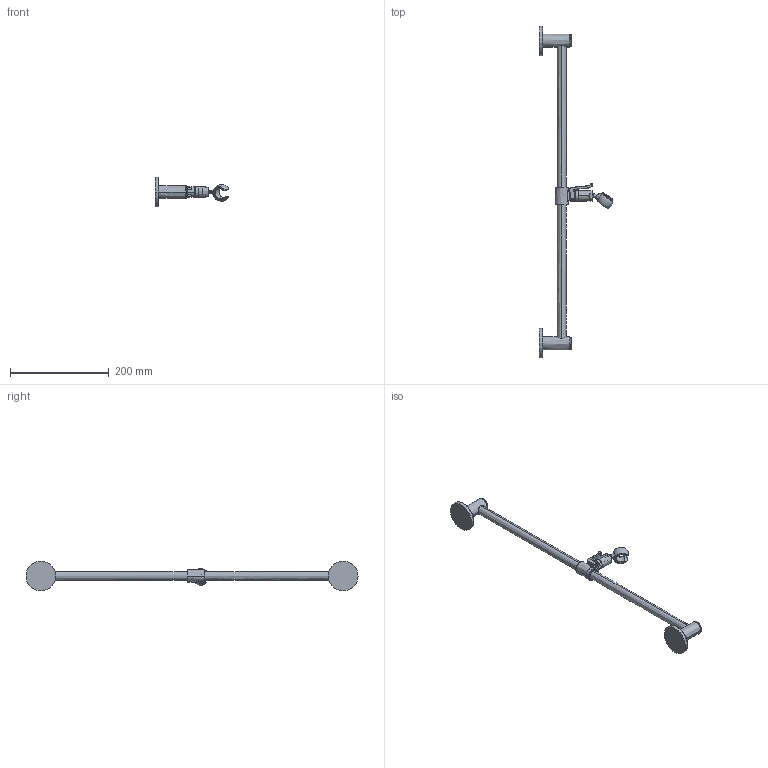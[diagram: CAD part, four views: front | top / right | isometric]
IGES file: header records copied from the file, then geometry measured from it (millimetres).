
Start section:  PTC IGES file: 26_000_502_xxx.igs
Global section: file name: 26_000_502_xxx.igs; native system: Creo Elements/Pro by Parametric Technology Corporation; preprocessor: 2011080; author: lff; organization: Unknown; date: 20120419.134219; units: millimetre
Bounding box: 149.37 x 672 x 60 mm (x, y, z)
Volume: 267127.3 mm3; surface area: 78340 mm2
Topology: 1 solids, 4 shells, 280 faces, 651 edges, 392 vertices
Faces by surface type: revolution 168, bspline 112
